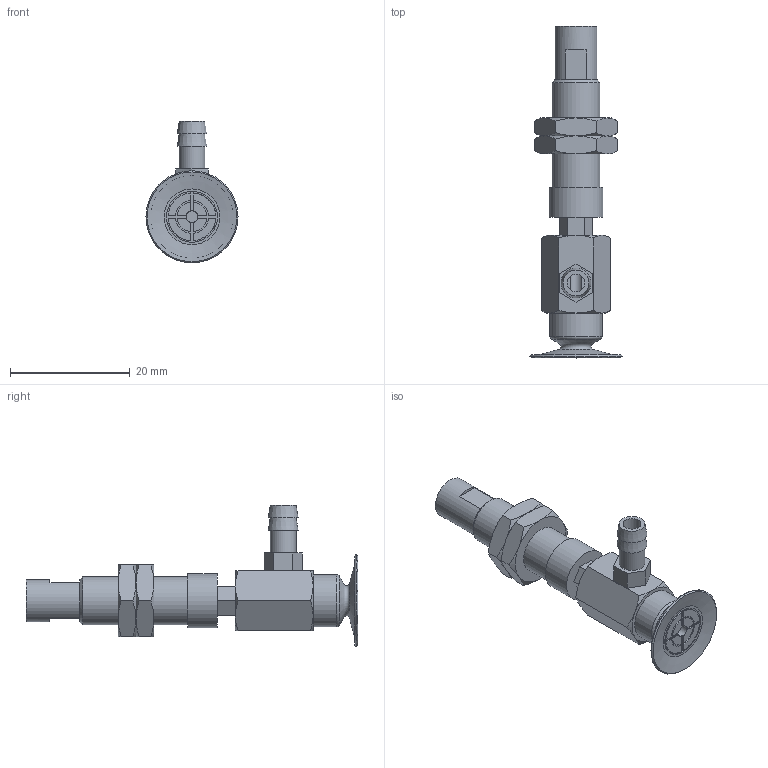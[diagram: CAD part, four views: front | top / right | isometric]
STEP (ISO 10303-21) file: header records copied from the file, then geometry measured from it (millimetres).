
FILE_DESCRIPTION(('STEP AP203'),'1');
FILE_NAME('-T.stp','2025-03-13T03:09:57',(' '),(' '),'Spatial InterOp 3D',' ',' ');
FILE_SCHEMA(('CONFIG_CONTROL_DESIGN'));
Length unit declared in the file: millimetre
Products named in the file (7): BNABPAYH-15B-3-※-T; NAPATH-10A-3--M; NAPATH-10A-3--F; Nut-10A-S; CONNECTOR-10A-3-PA; CONNECTOR-10A-3-T-PA; BPAG-15B-※
Assembly tree (7 placements, depth 2):
  BNABPAYH-15B-3-※-T
    NAPATH-10A-3--M
    NAPATH-10A-3--F
    Nut-10A-S  x2
    CONNECTOR-10A-3-PA
    CONNECTOR-10A-3-T-PA
    BPAG-15B-※
Bounding box: 15.4 x 55.5 x 23.7 mm (x, y, z)
Volume: 3582.4 mm3; surface area: 4734.3 mm2
Topology: 7 solids, 7 shells, 199 faces, 446 edges, 274 vertices
Faces by surface type: plane 95, cone 63, cylinder 31, torus 10
Full cylindrical faces by diameter (mm): 2 x2, 3 x1, 4 x2, 4.134 x2, 4.3 x1, 5 x2, 6 x2, 7 x1, 7.188 x2, 8 x1, 8.5 x1, 8.7 x1, 9 x1
Entity records: 5210 total; most frequent: CARTESIAN_POINT 1189, DIRECTION 762, ORIENTED_EDGE 686, EDGE_CURVE 343, AXIS2_PLACEMENT_3D 304, EDGE_LOOP 244, VERTEX_POINT 235, FACE_OUTER_BOUND 204
